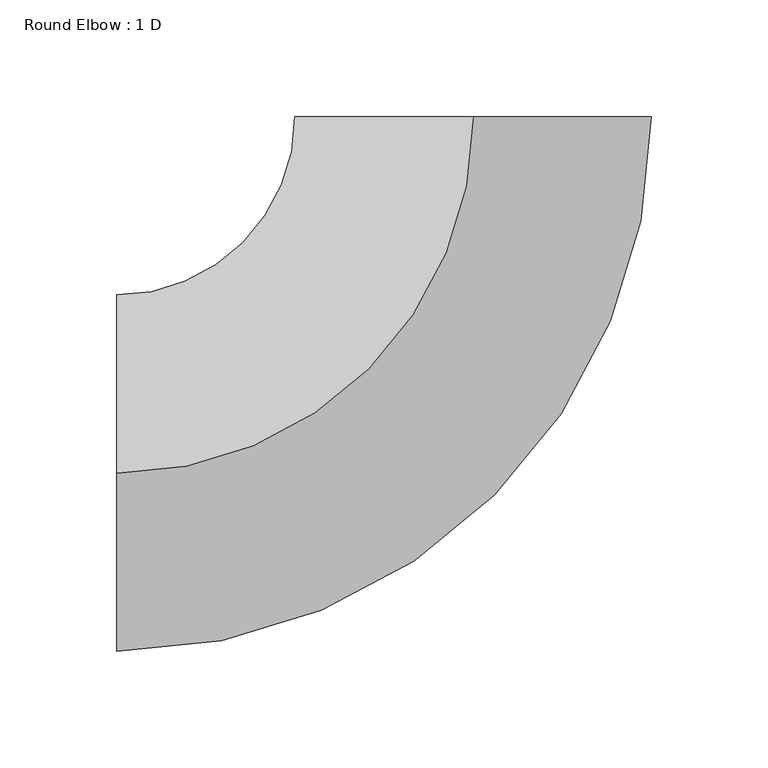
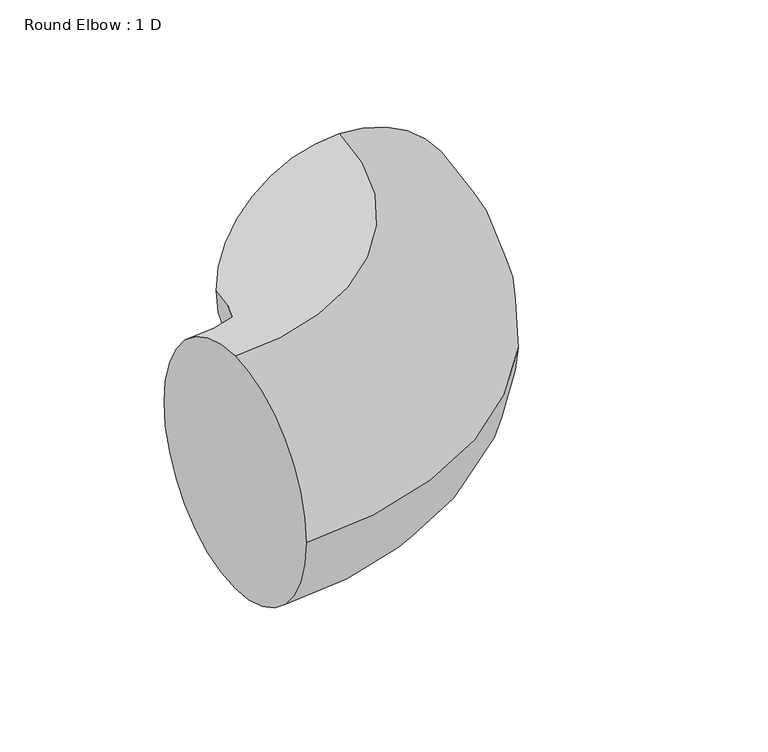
"""IFC4 building model written with IfcOpenShell, lengths in millimetres: duct fitting geometry, Round Elbow : 1 D."""

from ifc_helpers import new_model, si_unit, point, frame, origin, place, context, project, spatial, circle_curve, ellipse_curve, trimmed, source, transform, mapped, element, save
from ifc_brep_helpers import plane_surface, revolved_surface, advanced_brep


def round_elbow_1_d_b37ad80b(model_context):
    return source(origin(), model_context, "Body", "AdvancedBrep", [
        advanced_brep(
        [(-152.4, 0.0, 76.2), (-152.4, 76.2, 0.0), (-152.4, 0.0, -76.2), (-152.4, -76.2, 0.0), (0.0, 152.4, 76.2), (76.2, 152.4, 0.0), (0.0, 152.4, -76.2), (-76.2, 152.4, 0.0)],
        [
            (0, 1, circle_curve(frame((-152.4, 0.0, 0.0), z_axis=(-1.0, 0.0, 0.0), x_axis=(0.0, 1.0, 0.0)), 76.2)),
            (1, 2, circle_curve(frame((-152.4, 0.0, 0.0), z_axis=(-1.0, 0.0, 0.0), x_axis=(0.0, 1.0, 0.0)), 76.2)),
            (2, 3, circle_curve(frame((-152.4, 0.0, 0.0), z_axis=(-1.0, 0.0, 0.0), x_axis=(0.0, 1.0, 0.0)), 76.2)),
            (3, 0, circle_curve(frame((-152.4, 0.0, 0.0), z_axis=(-1.0, 0.0, 0.0), x_axis=(0.0, 1.0, 0.0)), 76.2)),
            (4, 5, circle_curve(frame((0.0, 152.4, 0.0), z_axis=(0.0, 1.0, 0.0), x_axis=(-1.0, 0.0, 0.0)), 76.2)),
            (5, 6, circle_curve(frame((0.0, 152.4, 0.0), z_axis=(0.0, 1.0, 0.0), x_axis=(-1.0, 0.0, 0.0)), 76.2)),
            (6, 7, circle_curve(frame((0.0, 152.4, 0.0), z_axis=(0.0, 1.0, 0.0), x_axis=(-1.0, 0.0, 0.0)), 76.2)),
            (7, 4, circle_curve(frame((0.0, 152.4, 0.0), z_axis=(0.0, 1.0, 0.0), x_axis=(-1.0, 0.0, 0.0)), 76.2)),
            (7, 1, circle_curve(frame((-152.4, 152.4, 0.0), z_axis=(0.0, 0.0, -1.0), x_axis=(0.0, -1.0, 0.0)), 76.2)),
            (0, 4, circle_curve(frame((-152.4, 152.4, 76.2), z_axis=(0.0, 0.0, 1.0), x_axis=(0.0, -1.0, 0.0)), 152.4)),
            (6, 2, circle_curve(frame((-152.4, 152.4, -76.2), z_axis=(0.0, 0.0, -1.0), x_axis=(0.0, -1.0, 0.0)), 152.4)),
            (5, 3, circle_curve(frame((-152.4, 152.4, 0.0), z_axis=(0.0, 0.0, -1.0), x_axis=(0.0, -1.0, 0.0)), 228.6)),
        ],
        [
            plane_surface(frame((-152.4, 0.0, 0.0), z_axis=(-1.0, 0.0, 0.0), x_axis=(0.0, 0.0, 1.0))),
            plane_surface(frame((0.0, 152.4, 0.0), z_axis=(0.0, 1.0, 0.0), x_axis=(0.0, 0.0, 1.0))),
            revolved_surface(trimmed(ellipse_curve(frame((-152.4, 0.0, 0.0), z_axis=(-1.0, 0.0, 0.0), x_axis=(0.0, 1.0, 0.0)), 76.2, 76.2), [point((-152.4, 0.0, 76.2))], [point((-152.4, 76.2, 0.0))], True, "CARTESIAN"), (-152.4, 152.4, 0.0), (0.0, 0.0, 1.0)),
            revolved_surface(trimmed(ellipse_curve(frame((-152.4, 0.0, 0.0), z_axis=(-1.0, 0.0, 0.0), x_axis=(0.0, 1.0, 0.0)), 76.2, 76.2), [point((-152.4, 76.2, 0.0))], [point((-152.4, 0.0, -76.2))], True, "CARTESIAN"), (-152.4, 152.4, 0.0), (0.0, 0.0, 1.0)),
            revolved_surface(trimmed(ellipse_curve(frame((-152.4, 0.0, 0.0), z_axis=(-1.0, 0.0, 0.0), x_axis=(0.0, 1.0, 0.0)), 76.2, 76.2), [point((-152.4, 0.0, -76.2))], [point((-152.4, -76.2, 0.0))], True, "CARTESIAN"), (-152.4, 152.4, 0.0), (0.0, 0.0, 1.0)),
            revolved_surface(trimmed(ellipse_curve(frame((-152.4, 0.0, 0.0), z_axis=(-1.0, 0.0, 0.0), x_axis=(0.0, 1.0, 0.0)), 76.2, 76.2), [point((-152.4, -76.2, 0.0))], [point((-152.4, 0.0, 76.2))], True, "CARTESIAN"), (-152.4, 152.4, 0.0), (0.0, 0.0, 1.0)),
        ],
        [
            (0, [[1, 2, 3, 4]]),
            (1, [[5, 6, 7, 8]]),
            (2, [[9, -1, 10, -8]]),
            (3, [[11, -2, -9, -7]]),
            (4, [[12, -3, -11, -6]]),
            (5, [[-10, -4, -12, -5]]),
        ],
    ),
    ])


if __name__ == "__main__":
    model = new_model("IFC4")
    model_context = context("Model", 3, world=origin())
    ifc_project = project(units=[si_unit("LENGTHUNIT", "METRE", prefix="MILLI")], contexts=[model_context])
    site = spatial("IfcSite", under=ifc_project)
    building = spatial("IfcBuilding", under=site)
    placement = place(None, origin())
    round_elbow_1_d_shape = round_elbow_1_d_b37ad80b(model_context)
    element("IfcDuctFitting", 1, ObjectType="Round Elbow : 1 D", at=placement, inside=building, context=model_context, shape_type="MappedRepresentation", body=[
        mapped(round_elbow_1_d_shape, transform((0.0, 0.0, 0.0), x_axis=(1.0, 0.0, 0.0), y_axis=(0.0, 1.0, 0.0), z_axis=(0.0, 0.0, 1.0))),
    ])
    save(model, "model.ifc")
